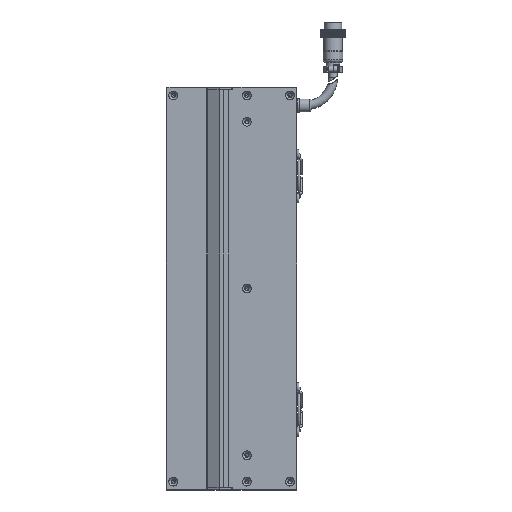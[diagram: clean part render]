
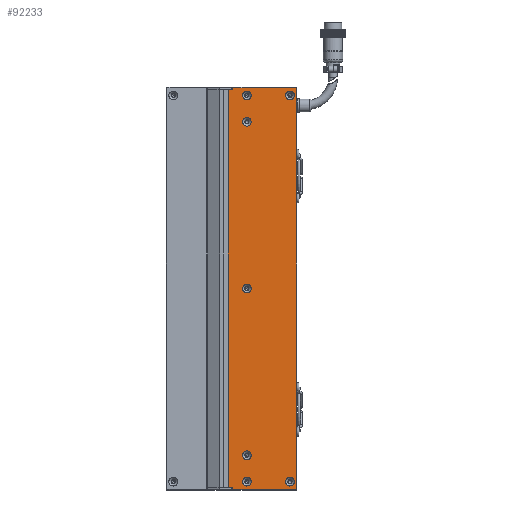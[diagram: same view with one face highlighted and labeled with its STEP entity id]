
A CAD part, left-side view. The second image highlights one B-rep face of the part: STEP entity #92233.
In plain terms, the highlighted planar face has unit normal (-1, 0, 0).
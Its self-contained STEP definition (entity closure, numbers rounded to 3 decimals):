
#1535 = LINE ( 'NONE', #62526, #24294 ) ;
#1607 = FACE_BOUND ( 'NONE', #9738, .T. ) ;
#2755 = EDGE_LOOP ( 'NONE', ( #24605 ) ) ;
#4246 = ORIENTED_EDGE ( 'NONE', *, *, #101367, .F. ) ;
#4588 = ORIENTED_EDGE ( 'NONE', *, *, #115905, .T. ) ;
#6636 = CARTESIAN_POINT ( 'NONE',  ( -24.998, -26.5, 144.5 ) ) ;
#7014 = VERTEX_POINT ( 'NONE', #70476 ) ;
#7756 = PLANE ( 'NONE',  #31474 ) ;
#7761 = DIRECTION ( 'NONE',  ( -1., 0., 0. ) ) ;
#9738 = EDGE_LOOP ( 'NONE', ( #85149 ) ) ;
#10139 = CIRCLE ( 'NONE', #75983, 3.15 ) ;
#10665 = VECTOR ( 'NONE', #65477, 1000. ) ;
#11136 = ORIENTED_EDGE ( 'NONE', *, *, #66131, .F. ) ;
#14019 = ORIENTED_EDGE ( 'NONE', *, *, #63122, .F. ) ;
#14078 = CARTESIAN_POINT ( 'NONE',  ( -24.998, -23.25, 143. ) ) ;
#15990 = VERTEX_POINT ( 'NONE', #59469 ) ;
#17227 = CARTESIAN_POINT ( 'NONE',  ( -24.998, -36.5, 0. ) ) ;
#18041 = DIRECTION ( 'NONE',  ( 0., 0., 1. ) ) ;
#18269 = FACE_BOUND ( 'NONE', #31792, .T. ) ;
#18630 = EDGE_CURVE ( 'NONE', #51416, #47547, #1535, .T. ) ;
#19344 = CIRCLE ( 'NONE', #29462, 3.15 ) ;
#19382 = DIRECTION ( 'NONE',  ( 0., 0., -1. ) ) ;
#19947 = CARTESIAN_POINT ( 'NONE',  ( -24.998, -26.5, 143. ) ) ;
#21206 = EDGE_CURVE ( 'NONE', #36246, #93132, #78252, .T. ) ;
#23416 = CARTESIAN_POINT ( 'NONE',  ( -24.998, -36.5, 142.15 ) ) ;
#24294 = VECTOR ( 'NONE', #61291, 1000. ) ;
#24605 = ORIENTED_EDGE ( 'NONE', *, *, #39958, .F. ) ;
#26478 = CARTESIAN_POINT ( 'NONE',  ( -24.998, -72.5, 143. ) ) ;
#27009 = DIRECTION ( 'NONE',  ( -1., 0., 0. ) ) ;
#27032 = DIRECTION ( 'NONE',  ( 0., 0., 1. ) ) ;
#27423 = FACE_BOUND ( 'NONE', #123774, .T. ) ;
#28192 = AXIS2_PLACEMENT_3D ( 'NONE', #47155, #7761, #56957 ) ;
#28872 = CARTESIAN_POINT ( 'NONE',  ( -24.998, -72., 144.5 ) ) ;
#29462 = AXIS2_PLACEMENT_3D ( 'NONE', #79985, #99531, #51128 ) ;
#31467 = DIRECTION ( 'NONE',  ( 0., 0., 1. ) ) ;
#31474 = AXIS2_PLACEMENT_3D ( 'NONE', #64625, #35740, #65028 ) ;
#31482 = CARTESIAN_POINT ( 'NONE',  ( -24.998, -67.5, 142.15 ) ) ;
#31792 = EDGE_LOOP ( 'NONE', ( #14019 ) ) ;
#32333 = ORIENTED_EDGE ( 'NONE', *, *, #124394, .F. ) ;
#34357 = VERTEX_POINT ( 'NONE', #90860 ) ;
#35000 = CARTESIAN_POINT ( 'NONE',  ( -24.998, -72.5, -143. ) ) ;
#35740 = DIRECTION ( 'NONE',  ( 1., 0., 0. ) ) ;
#36246 = VERTEX_POINT ( 'NONE', #50645 ) ;
#36737 = ORIENTED_EDGE ( 'NONE', *, *, #65502, .T. ) ;
#38384 = EDGE_LOOP ( 'NONE', ( #57963, #4588, #36737, #57832, #83092, #53689, #100641, #41398 ) ) ;
#39046 = AXIS2_PLACEMENT_3D ( 'NONE', #120547, #99792, #41574 ) ;
#39053 = EDGE_CURVE ( 'NONE', #80138, #43689, #50086, .T. ) ;
#39500 = FACE_OUTER_BOUND ( 'NONE', #38384, .T. ) ;
#39519 = LINE ( 'NONE', #49039, #72972 ) ;
#39958 = EDGE_CURVE ( 'NONE', #69422, #69422, #54578, .T. ) ;
#40366 = DIRECTION ( 'NONE',  ( 0., 0., -1. ) ) ;
#41398 = ORIENTED_EDGE ( 'NONE', *, *, #93042, .F. ) ;
#41574 = DIRECTION ( 'NONE',  ( 0., 0., 1. ) ) ;
#43689 = VERTEX_POINT ( 'NONE', #19947 ) ;
#44427 = CIRCLE ( 'NONE', #68122, 3.15 ) ;
#44760 = DIRECTION ( 'NONE',  ( 0., -1., 0. ) ) ;
#45470 = ORIENTED_EDGE ( 'NONE', *, *, #107146, .F. ) ;
#45643 = FACE_BOUND ( 'NONE', #2755, .T. ) ;
#47155 = CARTESIAN_POINT ( 'NONE',  ( -24.998, -36.5, -139. ) ) ;
#47547 = VERTEX_POINT ( 'NONE', #6636 ) ;
#49039 = CARTESIAN_POINT ( 'NONE',  ( -24.998, -72.5, -144.5 ) ) ;
#49724 = CARTESIAN_POINT ( 'NONE',  ( -24.998, -23.25, -143. ) ) ;
#49757 = CARTESIAN_POINT ( 'NONE',  ( -24.998, -26.5, -136. ) ) ;
#50086 = LINE ( 'NONE', #26478, #10665 ) ;
#50645 = CARTESIAN_POINT ( 'NONE',  ( -24.998, -23.25, -143. ) ) ;
#51128 = DIRECTION ( 'NONE',  ( 0., 0., 1. ) ) ;
#51416 = VERTEX_POINT ( 'NONE', #28872 ) ;
#52402 = VECTOR ( 'NONE', #44760, 1000. ) ;
#53126 = VERTEX_POINT ( 'NONE', #122131 ) ;
#53157 = FACE_BOUND ( 'NONE', #114688, .T. ) ;
#53689 = ORIENTED_EDGE ( 'NONE', *, *, #109285, .T. ) ;
#54578 = CIRCLE ( 'NONE', #106428, 3.15 ) ;
#55808 = DIRECTION ( 'NONE',  ( -1., 0., 0. ) ) ;
#56273 = FACE_BOUND ( 'NONE', #57860, .T. ) ;
#56957 = DIRECTION ( 'NONE',  ( 0., 0., 1. ) ) ;
#57832 = ORIENTED_EDGE ( 'NONE', *, *, #64002, .T. ) ;
#57860 = EDGE_LOOP ( 'NONE', ( #4246 ) ) ;
#57963 = ORIENTED_EDGE ( 'NONE', *, *, #21206, .T. ) ;
#59469 = CARTESIAN_POINT ( 'NONE',  ( -24.998, -36.5, -116.85 ) ) ;
#60689 = VERTEX_POINT ( 'NONE', #81824 ) ;
#61291 = DIRECTION ( 'NONE',  ( 0., 1., 0. ) ) ;
#62526 = CARTESIAN_POINT ( 'NONE',  ( -24.998, -72.5, 144.5 ) ) ;
#63122 = EDGE_CURVE ( 'NONE', #63241, #63241, #44427, .T. ) ;
#63241 = VERTEX_POINT ( 'NONE', #115931 ) ;
#63921 = DIRECTION ( 'NONE',  ( 0., 0., 1. ) ) ;
#64002 = EDGE_CURVE ( 'NONE', #53126, #51416, #109553, .T. ) ;
#64625 = CARTESIAN_POINT ( 'NONE',  ( -24.998, -72.5, 143. ) ) ;
#65028 = DIRECTION ( 'NONE',  ( 0., 0., -1. ) ) ;
#65477 = DIRECTION ( 'NONE',  ( 0., -1., 0. ) ) ;
#65502 = EDGE_CURVE ( 'NONE', #60689, #53126, #39519, .T. ) ;
#66120 = DIRECTION ( 'NONE',  ( 0., 0., 1. ) ) ;
#66131 = EDGE_CURVE ( 'NONE', #81474, #81474, #110757, .T. ) ;
#66897 = LINE ( 'NONE', #49724, #107709 ) ;
#67343 = LINE ( 'NONE', #49757, #103839 ) ;
#68122 = AXIS2_PLACEMENT_3D ( 'NONE', #84745, #95805, #66120 ) ;
#69399 = DIRECTION ( 'NONE',  ( 0., -1., 0. ) ) ;
#69422 = VERTEX_POINT ( 'NONE', #31482 ) ;
#69428 = EDGE_CURVE ( 'NONE', #34357, #34357, #125663, .T. ) ;
#70476 = CARTESIAN_POINT ( 'NONE',  ( -24.998, -36.5, -135.85 ) ) ;
#71344 = CARTESIAN_POINT ( 'NONE',  ( -24.998, -26.5, -143. ) ) ;
#72972 = VECTOR ( 'NONE', #69399, 1000. ) ;
#75838 = CARTESIAN_POINT ( 'NONE',  ( -24.998, -72., 143. ) ) ;
#75983 = AXIS2_PLACEMENT_3D ( 'NONE', #123724, #27009, #124128 ) ;
#77518 = CARTESIAN_POINT ( 'NONE',  ( -24.998, -26.5, 136. ) ) ;
#77696 = EDGE_LOOP ( 'NONE', ( #45470 ) ) ;
#78252 = LINE ( 'NONE', #35000, #52402 ) ;
#79985 = CARTESIAN_POINT ( 'NONE',  ( -24.998, -36.5, -120. ) ) ;
#80138 = VERTEX_POINT ( 'NONE', #14078 ) ;
#81474 = VERTEX_POINT ( 'NONE', #23416 ) ;
#81824 = CARTESIAN_POINT ( 'NONE',  ( -24.998, -26.5, -144.5 ) ) ;
#83092 = ORIENTED_EDGE ( 'NONE', *, *, #18630, .T. ) ;
#83412 = DIRECTION ( 'NONE',  ( -1., 0., 0. ) ) ;
#84745 = CARTESIAN_POINT ( 'NONE',  ( -24.998, -67.5, -139. ) ) ;
#85149 = ORIENTED_EDGE ( 'NONE', *, *, #69428, .F. ) ;
#85644 = CIRCLE ( 'NONE', #28192, 3.15 ) ;
#90860 = CARTESIAN_POINT ( 'NONE',  ( -24.998, -36.5, 3.15 ) ) ;
#91327 = LINE ( 'NONE', #77518, #110997 ) ;
#92233 = ADVANCED_FACE ( 'NONE', ( #18269, #121492, #45643, #27423, #56273, #53157, #1607, #39500 ), #7756, .F. ) ;
#93042 = EDGE_CURVE ( 'NONE', #36246, #80138, #66897, .T. ) ;
#93132 = VERTEX_POINT ( 'NONE', #71344 ) ;
#95805 = DIRECTION ( 'NONE',  ( -1., 0., 0. ) ) ;
#99531 = DIRECTION ( 'NONE',  ( -1., 0., 0. ) ) ;
#99792 = DIRECTION ( 'NONE',  ( -1., 0., 0. ) ) ;
#100641 = ORIENTED_EDGE ( 'NONE', *, *, #39053, .F. ) ;
#101367 = EDGE_CURVE ( 'NONE', #123840, #123840, #10139, .T. ) ;
#103839 = VECTOR ( 'NONE', #40366, 1000. ) ;
#105114 = VECTOR ( 'NONE', #27032, 1000. ) ;
#106428 = AXIS2_PLACEMENT_3D ( 'NONE', #122028, #83412, #63921 ) ;
#107146 = EDGE_CURVE ( 'NONE', #7014, #7014, #85644, .T. ) ;
#107709 = VECTOR ( 'NONE', #31467, 1000. ) ;
#109285 = EDGE_CURVE ( 'NONE', #47547, #43689, #91327, .T. ) ;
#109553 = LINE ( 'NONE', #75838, #105114 ) ;
#110757 = CIRCLE ( 'NONE', #39046, 3.15 ) ;
#110997 = VECTOR ( 'NONE', #19382, 1000. ) ;
#114688 = EDGE_LOOP ( 'NONE', ( #32333 ) ) ;
#115905 = EDGE_CURVE ( 'NONE', #93132, #60689, #67343, .T. ) ;
#115931 = CARTESIAN_POINT ( 'NONE',  ( -24.998, -67.5, -135.85 ) ) ;
#117996 = CARTESIAN_POINT ( 'NONE',  ( -24.998, -36.5, 123.15 ) ) ;
#120500 = AXIS2_PLACEMENT_3D ( 'NONE', #17227, #55808, #18041 ) ;
#120547 = CARTESIAN_POINT ( 'NONE',  ( -24.998, -36.5, 139. ) ) ;
#121492 = FACE_BOUND ( 'NONE', #77696, .T. ) ;
#122028 = CARTESIAN_POINT ( 'NONE',  ( -24.998, -67.5, 139. ) ) ;
#122131 = CARTESIAN_POINT ( 'NONE',  ( -24.998, -72., -144.5 ) ) ;
#123724 = CARTESIAN_POINT ( 'NONE',  ( -24.998, -36.5, 120. ) ) ;
#123774 = EDGE_LOOP ( 'NONE', ( #11136 ) ) ;
#123840 = VERTEX_POINT ( 'NONE', #117996 ) ;
#124128 = DIRECTION ( 'NONE',  ( 0., 0., 1. ) ) ;
#124394 = EDGE_CURVE ( 'NONE', #15990, #15990, #19344, .T. ) ;
#125663 = CIRCLE ( 'NONE', #120500, 3.15 ) ;
